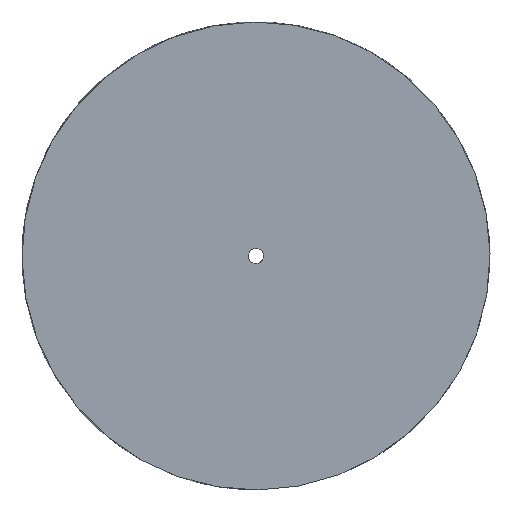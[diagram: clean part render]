
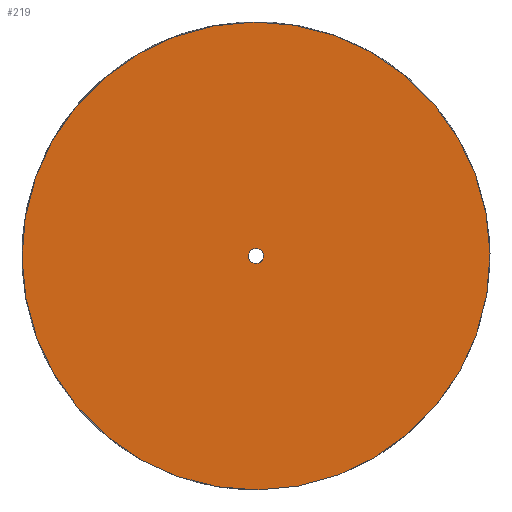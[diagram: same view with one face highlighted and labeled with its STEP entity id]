
A CAD part, top view. The second image highlights one B-rep face of the part: STEP entity #219.
In plain terms, the highlighted planar face has unit normal (0.023, -0.028, 0.999).
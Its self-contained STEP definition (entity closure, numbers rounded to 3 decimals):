
#17=FACE_BOUND('',#48,.T.);
#19=CIRCLE('',#244,45.72);
#20=CIRCLE('',#246,1.5);
#33=FACE_OUTER_BOUND('',#47,.T.);
#47=EDGE_LOOP('',(#193));
#48=EDGE_LOOP('',(#194));
#107=VERTEX_POINT('',#367);
#112=VERTEX_POINT('',#472);
#134=EDGE_CURVE('',#107,#107,#19,.T.);
#140=EDGE_CURVE('',#112,#112,#20,.T.);
#193=ORIENTED_EDGE('',*,*,#134,.T.);
#194=ORIENTED_EDGE('',*,*,#140,.T.);
#208=PLANE('',#245);
#219=ADVANCED_FACE('',(#33,#17),#208,.T.);
#244=AXIS2_PLACEMENT_3D('',#368,#282,#283);
#245=AXIS2_PLACEMENT_3D('',#471,#285,#286);
#246=AXIS2_PLACEMENT_3D('',#473,#287,#288);
#282=DIRECTION('center_axis',(0.023,-0.028,0.999));
#283=DIRECTION('ref_axis',(-0.009,1.,0.028));
#285=DIRECTION('center_axis',(0.023,-0.028,0.999));
#286=DIRECTION('ref_axis',(-1.,0.,0.023));
#287=DIRECTION('center_axis',(-0.023,0.028,-0.999));
#288=DIRECTION('ref_axis',(-0.964,-0.267,0.014));
#367=CARTESIAN_POINT('',(-529.234,-121.545,32.763));
#368=CARTESIAN_POINT('Origin',(-529.623,-75.844,34.049));
#471=CARTESIAN_POINT('Origin',(-133.36,70.55,29.143));
#472=CARTESIAN_POINT('',(-528.178,-75.444,34.027));
#473=CARTESIAN_POINT('Origin',(-529.623,-75.844,34.049));
